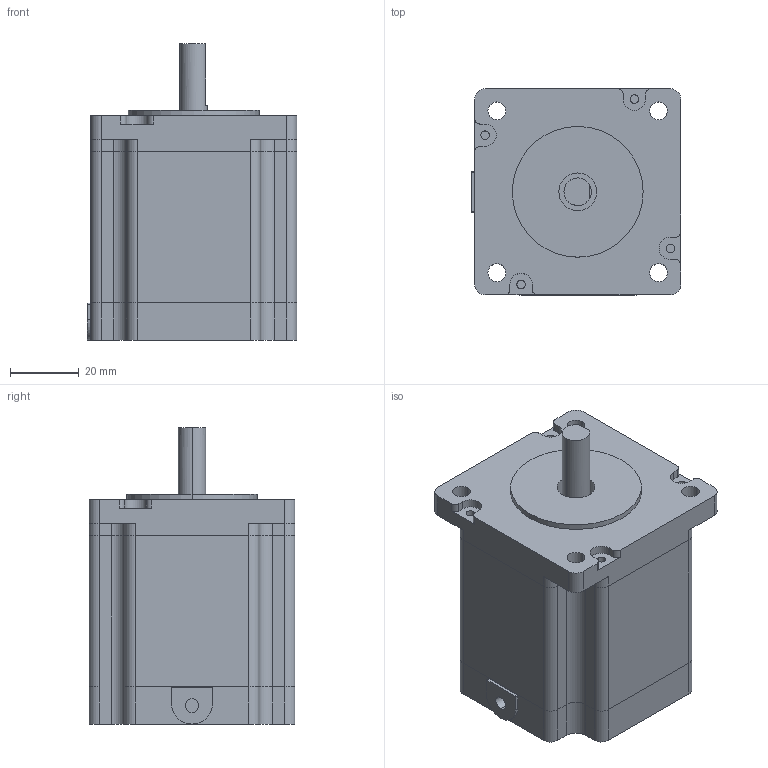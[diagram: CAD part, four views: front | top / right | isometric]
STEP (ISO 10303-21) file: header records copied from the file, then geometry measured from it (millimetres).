
FILE_DESCRIPTION((''),'2;1');
FILE_NAME('QL60HB65-03A','2021-11-12T10:00:52',('qingl'),(''),'CREO PARAMETRIC BY PTC INC, 2019224','CREO PARAMETRIC BY PTC INC, 2019224','');
FILE_SCHEMA(('CONFIG_CONTROL_DESIGN'));
Length unit declared in the file: millimetre
Products named in the file (1): QL60HB65-03A
Bounding box: 61 x 60 x 86.5 mm (x, y, z)
Volume: 210822 mm3; surface area: 23940.7 mm2
Topology: 1 solids, 1 shells, 271 faces, 716 edges, 461 vertices
Faces by surface type: cylinder 188, plane 75, bspline 8
Entity records: 12130 total; most frequent: CARTESIAN_POINT 5692, ORIENTED_EDGE 1432, DIRECTION 1180, EDGE_CURVE 716, VERTEX_POINT 461, AXIS2_PLACEMENT_3D 421, VECTOR 338, LINE 338
